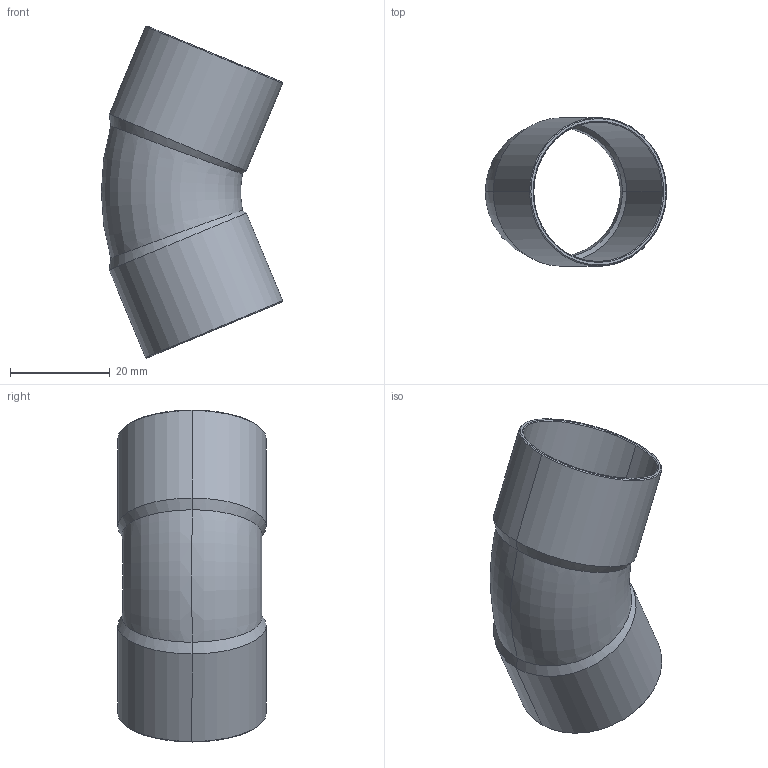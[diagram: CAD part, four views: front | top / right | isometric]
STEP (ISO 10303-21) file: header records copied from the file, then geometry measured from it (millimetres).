
FILE_DESCRIPTION((''),'2;1');
FILE_NAME('P:\Bouwmaten\z-maattekeningen 3D\5000\5040\1504128.stp','2005-10-12T15:24:05',('Kris'),(''),'Autodesk Inventor 8','Autodesk Inventor 8','');
FILE_SCHEMA(('AUTOMOTIVE_DESIGN { 1 0 10303 214 1 1 1 1 }'));
Length unit declared in the file: millimetre
Products named in the file (1): 1504128
Bounding box: 36.4 x 29.8 x 66.68 mm (x, y, z)
Volume: 4716.8 mm3; surface area: 10618.7 mm2
Topology: 1 solids, 1 shells, 30 faces, 60 edges, 32 vertices
Faces by surface type: cone 12, bspline 9, torus 4, cylinder 4, plane 1
Entity records: 1027 total; most frequent: CARTESIAN_POINT 414, DIRECTION 124, ORIENTED_EDGE 120, EDGE_CURVE 60, AXIS2_PLACEMENT_3D 50, VERTEX_POINT 32, EDGE_LOOP 32, FACE_OUTER_BOUND 30
